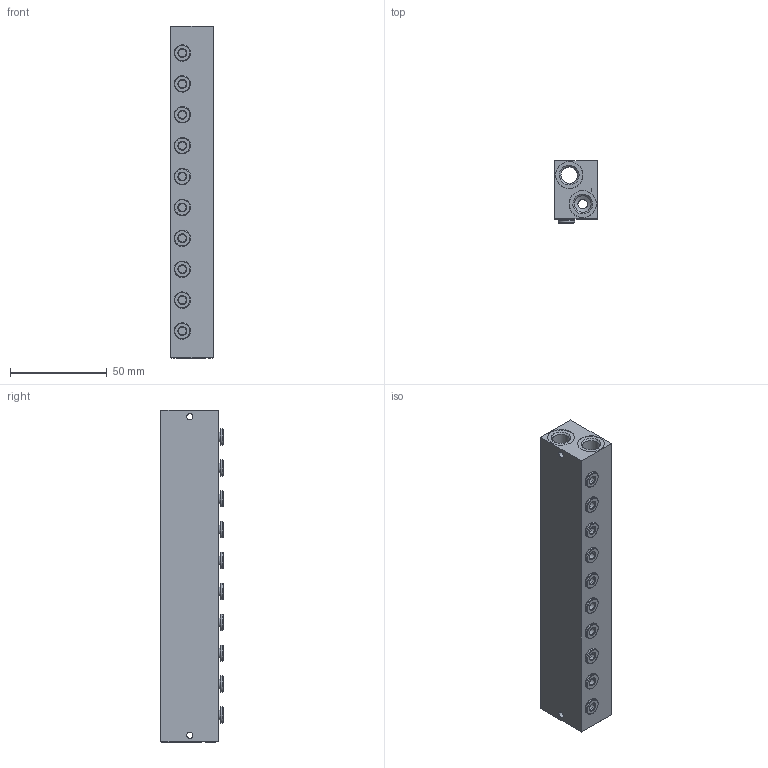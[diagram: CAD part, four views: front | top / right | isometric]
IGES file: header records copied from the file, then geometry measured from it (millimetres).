
Global section: file name: 354_10; native system: Autodesk Inventor 2014; preprocessor: unknown; author: R.Rivoltella; organization: Pneumax S.p.A.; date: 20161003.105233; units: millimetre
Bounding box: 22 x 32.25 x 172 mm (x, y, z)
Volume: 97551.1 mm3; surface area: 30693.9 mm2
Topology: 1 solids, 1 shells, 180 faces, 520 edges, 378 vertices
Faces by surface type: bspline 180
